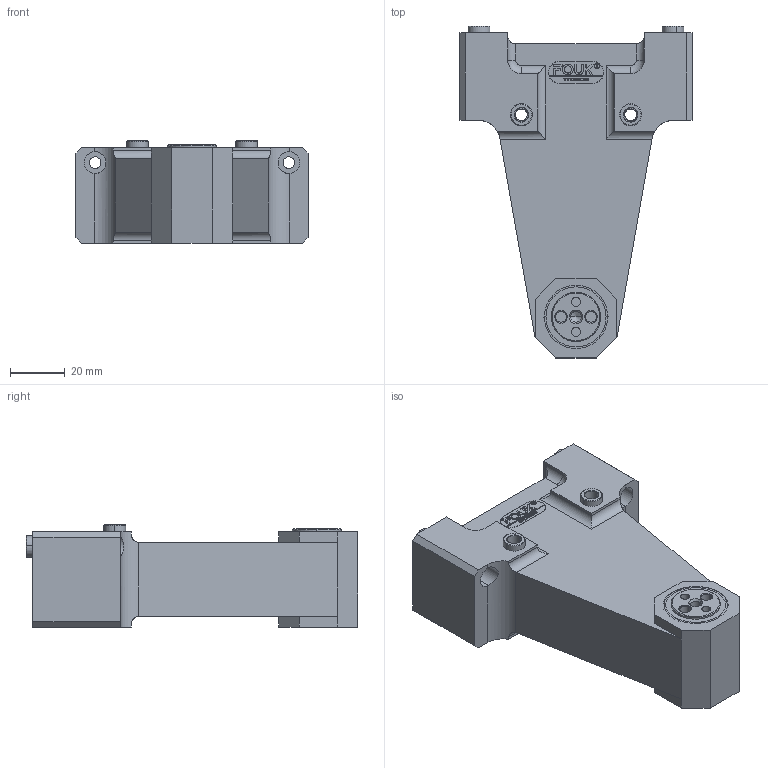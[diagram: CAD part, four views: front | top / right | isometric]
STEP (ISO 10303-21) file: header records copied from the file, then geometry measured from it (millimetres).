
FILE_DESCRIPTION (( 'STEP AP203' ), '1' );
FILE_NAME ('GS16-F.STEP', '2026-05-08T08:05:45', ( 'USER-' ), ( 'Microsoft' ), 'SwSTEP 2.0', 'SolidWorks 2018', '' );
FILE_SCHEMA (( 'CONFIG_CONTROL_DESIGN' ));
Length unit declared in the file: millimetre
Products named in the file (8): GB╱T 290-2017[一面带密封圈的开口型滚针轴承 HK 0000-RS型HK1814-RS]-1; 20x8-R4; GS16-F-03唅蛌粣嘐隅遠; GB╱T 276-2013[两面带密封圈（接触式）的深沟球轴承[60000-2RS]61900-2RS]; GS16-F-02 唅蛌粣; ﾏ擎ﾗ8｡ﾁ5｡ﾁ5; GS16-F; GS16-F-01 褲极
Assembly tree (10 placements, depth 2):
  GS16-F
    GS16-F-01 褲极
    GB╱T 290-2017[一面带密封圈的开口型滚针轴承 HK 0000-RS型HK1814-RS]-1
    GS16-F-02 唅蛌粣
    GB╱T 276-2013[两面带密封圈（接触式）的深沟球轴承[60000-2RS]61900-2RS]
    GS16-F-03唅蛌粣嘐隅遠
    20x8-R4
    ﾏ擎ﾗ8｡ﾁ5｡ﾁ5  x4
Bounding box: 85 x 121.5 x 37.5 mm (x, y, z)
Volume: 175722.8 mm3; surface area: 41385.9 mm2
Topology: 33 solids, 34 shells, 983 faces, 2450 edges, 1571 vertices
Faces by surface type: plane 408, cylinder 269, bspline 244, cone 56, torus 6
Entity records: 36570 total; most frequent: CARTESIAN_POINT 14621, ORIENTED_EDGE 4624, DIRECTION 3831, EDGE_CURVE 2312, VERTEX_POINT 1523, AXIS2_PLACEMENT_3D 1331, VECTOR 1169, LINE 1169
